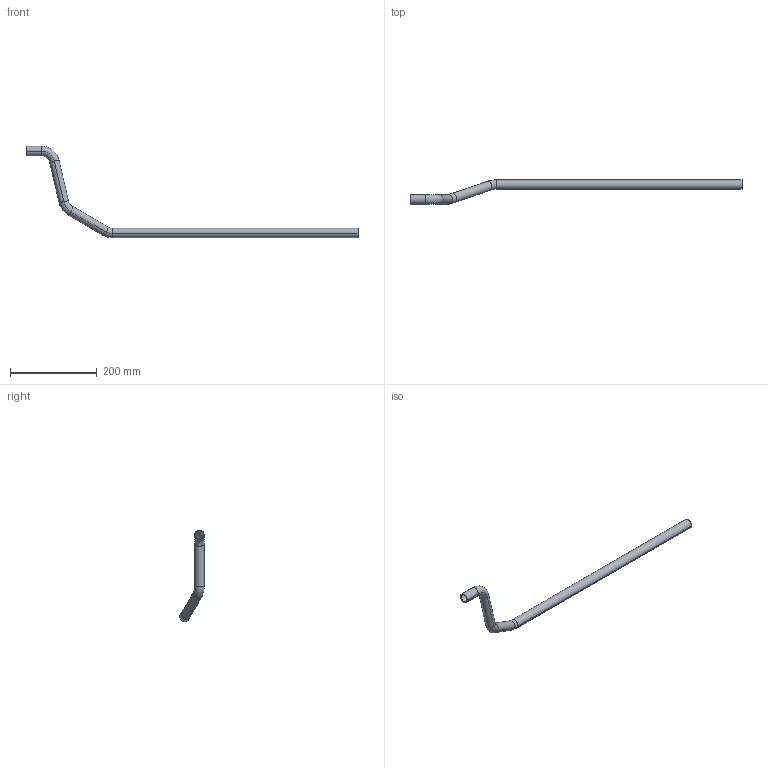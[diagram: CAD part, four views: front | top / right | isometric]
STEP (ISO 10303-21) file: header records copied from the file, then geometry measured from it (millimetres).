
FILE_DESCRIPTION(('CATIA V5 STEP Exchange','CAx-IF Rec.Pracs.--- Model Styling and Organization---1.2---2011-12-15'),'2;1');
FILE_NAME('c:\aplikace\smarteam\Temp\DO584744.step','2016-07-11T09:16:58+00:00',('none'),('none'),'CATIA Version 5 Release 21 SP 6 (IN-10)','CATIA V5 STEP AP214','none');
FILE_SCHEMA(('AUTOMOTIVE_DESIGN { 1 0 10303 214 1 1 1 1 }'));
Length unit declared in the file: millimetre
Products named in the file (1): DO584744, TRUBKA T3
Bounding box: 765.33 x 56.24 x 210.75 mm (x, y, z)
Volume: 85011 mm3; surface area: 113541.2 mm2
Topology: 1 solids, 1 shells, 30 faces, 60 edges, 32 vertices
Faces by surface type: cylinder 16, torus 12, plane 2
Entity records: 687 total; most frequent: ORIENTED_EDGE 120, CARTESIAN_POINT 109, DIRECTION 92, AXIS2_PLACEMENT_3D 61, EDGE_CURVE 60, CIRCLE 44, EDGE_LOOP 32, VERTEX_POINT 32
